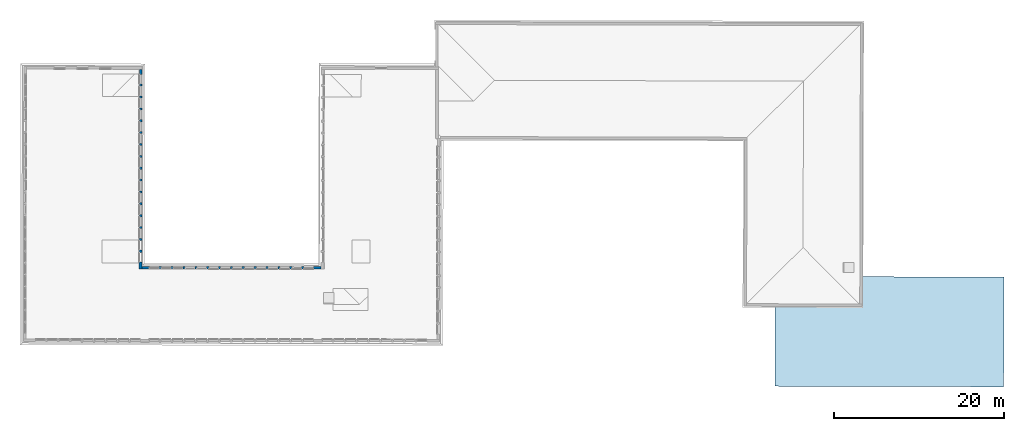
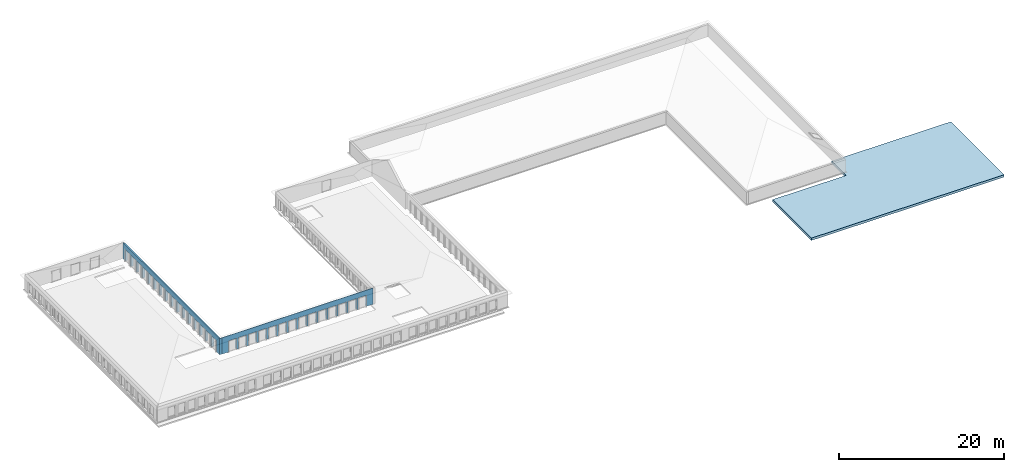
# One storey, part 22 of 26: 2 walls, 1 slab, 30 openings, 1 element without a shape of its own.
"""IFC2X3 building model written with IfcOpenShell, lengths in metres."""

from ifc_helpers import new_model, entity, si_unit, converted_unit, derived_unit, direction, frame, frame_2d, origin, origin_2d_with_axis, place, context, subcontext, project, spatial, polyline, rectangle, outline, extrude, clip, bounded_halfspace, material, layer, layer_set, layer_usage, type_object, element, aggregate, save


model = new_model("IFC2X3")

# Units and contexts
model_context = context("Model", 3, precision=1e-05, world=origin(), true_north=direction((6.123233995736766e-17, 1.0)))
body_context = subcontext(model_context, "Body", "Model", "MODEL_VIEW")
ifc_project = project(units=[si_unit("LENGTHUNIT", "METRE"), si_unit("AREAUNIT", "SQUARE_METRE"), converted_unit("PLANEANGLEUNIT", "DEGREE", entity("IfcPlaneAngleMeasure", 0.017453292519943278), si_unit("PLANEANGLEUNIT", "RADIAN"), dimensions=[0, 0, 0, 0, 0, 0, 0]), derived_unit("THERMALTRANSMITTANCEUNIT", [(si_unit("MASSUNIT", "GRAM", prefix="KILO"), 1), (si_unit("THERMODYNAMICTEMPERATUREUNIT", "KELVIN"), -1), (si_unit("TIMEUNIT", "SECOND"), -3)])], contexts=[model_context])

# Site, building, storey
site_placement = place(None, frame((1253.6752467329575, 2072.143113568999, 91.49999999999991), z_axis=(0.0, 0.0, 1.0), x_axis=(0.7237211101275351, 0.6900925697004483, 0.0)))
site = spatial("IfcSite", under=ifc_project, at=site_placement, Name="Surface", CompositionType="ELEMENT")
building_placement = place(site_placement, origin())
building = spatial("IfcBuilding", under=site, at=building_placement, CompositionType="ELEMENT")
storey_placement = place(building_placement, frame((0.0, 0.0, 7.0)))
storey = spatial("IfcBuildingStorey", under=building, at=storey_placement, Name="2-R+2", CompositionType="ELEMENT", Elevation=6.999999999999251)

# Roof, slab
ifc_material_1 = material(Name="OMD tranche")
ifc_layer_1 = layer(ifc_material_1, 0.35)
ifc_layer_set_1 = layer_set([ifc_layer_1], Name="Toit de base:toit terrasse 35")
roof_placement = place(storey_placement, frame((204.33338019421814, -79.37486805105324, 0.0)))
roof = element("IfcRoof", 1, at=roof_placement, inside=storey, material=ifc_layer_set_1, Name="Toit de base:toit terrasse 35", ObjectType="Toit de base:toit terrasse 35", ShapeType="NOTDEFINED")
type_product = type_object("IfcTypeProduct", Name="Toit de base:toit terrasse 35")
slab_placement = place(roof_placement, origin())
slab = element("IfcSlab", 2, at=slab_placement, type_object=type_product, material=ifc_layer_set_1, Name="Toit de base:toit terrasse 35", ObjectType="Toit de base:toit terrasse 35", PredefinedType="ROOF", context=body_context, shape_type="SweptSolid", body=[
    extrude(outline(polyline([(-14.219256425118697, 5.9308893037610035), (5.258175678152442, -12.738605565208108), (14.219256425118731, -3.3897269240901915), (2.1559543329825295, 8.173181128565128), (-0.2797988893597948, 5.632018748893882), (-7.693928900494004, 12.738605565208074), (-14.219256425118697, 5.9308893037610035)])), frame((14.219256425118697, 12.738605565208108, 0.0)), (0.0, 0.0, 1.0), 0.3499999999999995),
])
aggregate(roof, [slab])

# Wall, openings
ifc_material_2 = material(Name="OMD_Béton blanc")
ifc_layer_2 = layer(ifc_material_2, 0.29999999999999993)
ifc_layer_set_2 = layer_set([ifc_layer_2], Name="Mur de base:MUR 30")
ifc_layer_usage_1 = layer_usage(ifc_layer_set_2, "AXIS2", "NEGATIVE", 0.14999999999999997)
wall_type = type_object("IfcWallType", Name="Mur de base:MUR 30", PredefinedType="STANDARD", material=ifc_layer_set_2)
wall_1_placement = place(storey_placement, frame((175.99505469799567, 17.968774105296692, 0.9000000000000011), z_axis=(0.0, 0.0, 1.0), x_axis=(-0.6909838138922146, -0.7228702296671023, 0.0)))
wall_1 = element("IfcWallStandardCase", 3, at=wall_1_placement, inside=storey, type_object=wall_type, material=ifc_layer_usage_1, Name="Mur de base:MUR 30", ObjectType="Mur de base:MUR 30", context=body_context, shape_type="Clipping", body=[
    clip(clip(extrude(rectangle(XDim=23.54446506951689, YDim=0.29999999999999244, at=frame_2d((11.772232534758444, -2.6367796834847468e-15), x_axis=(-1.0, 0.0))), origin(), (0.0, 0.0, 1.0), 2.4065314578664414), bounded_halfspace(frame((0.0, 0.14999999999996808, 2.203153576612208), z_axis=(0.0, 0.5024164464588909, 0.8646257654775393), x_axis=(-1.0, 0.0, 0.0)), False, frame((0.0, 0.14999999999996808, 2.203153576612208)), polyline([(0.0, 0.0), (0.0, -0.29999999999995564), (23.494465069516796, -0.2999999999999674), (23.194465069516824, 0.0), (0.0, 0.0)]))), bounded_halfspace(frame((23.54446506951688, -0.15000000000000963, 2.406531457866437), z_axis=(-0.502416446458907, 0.0, 0.8646257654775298), x_axis=(0.0, -1.0, 0.0)), False, frame((23.54446506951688, -0.15000000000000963, 2.406531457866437)), polyline([(0.0, 0.0), (0.0, 0.29999999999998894), (-0.3000000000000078, 0.2999999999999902), (-0.35000000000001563, 0.2999999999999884), (-0.050000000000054, 0.0), (0.0, 0.0)]))),
])
opening_1_placement = place(wall_1_placement, frame((2.041628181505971, -0.013633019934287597, 0.0)))
element("IfcOpeningElement", 4, at=opening_1_placement, cuts=wall_1, Name="Mur de base:MUR 30", ObjectType="Opening", context=body_context, shape_type="SweptSolid", body=[
    extrude(rectangle(XDim=1.6499999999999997, YDim=1.1399999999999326, at=frame_2d((-1.5543122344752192e-15, 0.0), x_axis=(0.0, 1.0))), frame((-0.8720925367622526, -0.2887669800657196, 0.8249999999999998), z_axis=(0.0, 1.0, 0.0), x_axis=(-1.0, 0.0, 0.0)), (0.0, 0.0, 1.0), 0.6047999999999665),
])
opening_2_placement = place(wall_1_placement, frame((3.4416268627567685, -0.013633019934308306, 0.0)))
element("IfcOpeningElement", 5, at=opening_2_placement, cuts=wall_1, Name="Mur de base:MUR 30", ObjectType="Opening", context=body_context, shape_type="SweptSolid", body=[
    extrude(rectangle(XDim=1.6499999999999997, YDim=1.139999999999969, at=frame_2d((1.8207657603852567e-14, 0.0), x_axis=(0.0, 1.0))), frame((-0.872092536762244, -0.28876698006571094, 0.8249999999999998), z_axis=(0.0, 1.0, 0.0), x_axis=(-1.0, 0.0, 0.0)), (0.0, 0.0, 1.0), 0.6047999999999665),
])
opening_3_placement = place(wall_1_placement, frame((4.8416255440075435, -0.013633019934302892, 0.0)))
element("IfcOpeningElement", 6, at=opening_3_placement, cuts=wall_1, Name="Mur de base:MUR 30", ObjectType="Opening", context=body_context, shape_type="SweptSolid", body=[
    extrude(rectangle(XDim=1.6499999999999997, YDim=1.139999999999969, at=frame_2d((1.8207657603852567e-14, 0.0), x_axis=(0.0, 1.0))), frame((-0.872092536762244, -0.28876698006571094, 0.8249999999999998), z_axis=(0.0, 1.0, 0.0), x_axis=(-1.0, 0.0, 0.0)), (0.0, 0.0, 1.0), 0.6047999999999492),
])
opening_4_placement = place(wall_1_placement, frame((6.241624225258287, -0.01363301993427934, 0.0)))
element("IfcOpeningElement", 7, at=opening_4_placement, cuts=wall_1, Name="Mur de base:MUR 30", ObjectType="Opening", context=body_context, shape_type="SweptSolid", body=[
    extrude(rectangle(XDim=1.6499999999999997, YDim=1.139999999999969, at=frame_2d((-1.6653345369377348e-14, 0.0), x_axis=(0.0, 1.0))), frame((-0.8720925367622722, -0.28876698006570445, 0.8249999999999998), z_axis=(0.0, 1.0, 0.0), x_axis=(-1.0, 0.0, 0.0)), (0.0, 0.0, 1.0), 0.6048000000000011),
])
opening_5_placement = place(wall_1_placement, frame((7.641622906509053, -0.013633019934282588, 0.0)))
element("IfcOpeningElement", 8, at=opening_5_placement, cuts=wall_1, Name="Mur de base:MUR 30", ObjectType="Opening", context=body_context, shape_type="SweptSolid", body=[
    extrude(rectangle(XDim=1.6499999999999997, YDim=1.139999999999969, at=frame_2d((-1.9761969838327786e-14, 0.0), x_axis=(0.0, 1.0))), frame((-0.8720925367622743, -0.2887669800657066, 0.8249999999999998), z_axis=(0.0, 1.0, 0.0), x_axis=(-1.0, 0.0, 0.0)), (0.0, 0.0, 1.0), 0.6047999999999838),
])
opening_6_placement = place(wall_1_placement, frame((9.041621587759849, -0.013633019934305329, 0.0)))
element("IfcOpeningElement", 9, at=opening_6_placement, cuts=wall_1, Name="Mur de base:MUR 30", ObjectType="Opening", context=body_context, shape_type="SweptSolid", body=[
    extrude(rectangle(XDim=1.6499999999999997, YDim=1.1399999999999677, at=frame_2d((1.9040324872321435e-14, 0.0), x_axis=(0.0, 1.0))), frame((-0.872092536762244, -0.28876698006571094, 0.8249999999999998), z_axis=(0.0, 1.0, 0.0), x_axis=(-1.0, 0.0, 0.0)), (0.0, 0.0, 1.0), 0.6047999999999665),
])
opening_7_placement = place(wall_1_placement, frame((10.44162026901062, -0.013633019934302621, 0.0)))
element("IfcOpeningElement", 10, at=opening_7_placement, cuts=wall_1, Name="Mur de base:MUR 30", ObjectType="Opening", context=body_context, shape_type="SweptSolid", body=[
    extrude(rectangle(XDim=1.6499999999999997, YDim=1.139999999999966, at=frame_2d((1.8207657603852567e-14, 0.0), x_axis=(0.0, 1.0))), frame((-0.8720925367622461, -0.2887669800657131, 0.8249999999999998), z_axis=(0.0, 1.0, 0.0), x_axis=(-1.0, 0.0, 0.0)), (0.0, 0.0, 1.0), 0.6047999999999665),
])
opening_8_placement = place(wall_1_placement, frame((11.841618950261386, -0.013633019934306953, 0.0)))
element("IfcOpeningElement", 11, at=opening_8_placement, cuts=wall_1, Name="Mur de base:MUR 30", ObjectType="Opening", context=body_context, shape_type="SweptSolid", body=[
    extrude(rectangle(XDim=1.6499999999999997, YDim=1.139999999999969, at=frame_2d((1.8207657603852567e-14, 0.0), x_axis=(0.0, 1.0))), frame((-0.872092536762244, -0.28876698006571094, 0.8249999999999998), z_axis=(0.0, 1.0, 0.0), x_axis=(-1.0, 0.0, 0.0)), (0.0, 0.0, 1.0), 0.6047999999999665),
])
opening_9_placement = place(wall_1_placement, frame((13.241617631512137, -0.013633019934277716, 0.0)))
element("IfcOpeningElement", 12, at=opening_9_placement, cuts=wall_1, Name="Mur de base:MUR 30", ObjectType="Opening", context=body_context, shape_type="SweptSolid", body=[
    extrude(rectangle(XDim=1.6499999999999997, YDim=1.139999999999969, at=frame_2d((1.8207657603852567e-14, 0.0), x_axis=(0.0, 1.0))), frame((-0.8720925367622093, -0.28876698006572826, 0.8249999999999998), z_axis=(0.0, 1.0, 0.0), x_axis=(-1.0, 0.0, 0.0)), (0.0, 0.0, 1.0), 0.6047999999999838),
])
opening_10_placement = place(wall_1_placement, frame((14.641616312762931, -0.013633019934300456, 0.0)))
element("IfcOpeningElement", 13, at=opening_10_placement, cuts=wall_1, Name="Mur de base:MUR 30", ObjectType="Opening", context=body_context, shape_type="SweptSolid", body=[
    extrude(rectangle(XDim=1.6499999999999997, YDim=1.1399999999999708, at=frame_2d((1.7486012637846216e-14, 0.0), x_axis=(0.0, 1.0))), frame((-0.8720925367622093, -0.28876698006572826, 0.8249999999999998), z_axis=(0.0, 1.0, 0.0), x_axis=(-1.0, 0.0, 0.0)), (0.0, 0.0, 1.0), 0.6048000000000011),
])
opening_11_placement = place(wall_1_placement, frame((16.041614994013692, -0.013633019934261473, 0.0)))
element("IfcOpeningElement", 14, at=opening_11_placement, cuts=wall_1, Name="Mur de base:MUR 30", ObjectType="Opening", context=body_context, shape_type="SweptSolid", body=[
    extrude(rectangle(XDim=1.6499999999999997, YDim=1.139999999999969, at=frame_2d((1.8207657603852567e-14, 0.0), x_axis=(0.0, 1.0))), frame((-0.8720925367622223, -0.28876698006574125, 0.8249999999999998), z_axis=(0.0, 1.0, 0.0), x_axis=(-1.0, 0.0, 0.0)), (0.0, 0.0, 1.0), 0.6047999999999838),
])
opening_12_placement = place(wall_1_placement, frame((17.4441169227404, -0.01363301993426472, 0.0)))
element("IfcOpeningElement", 15, at=opening_12_placement, cuts=wall_1, Name="Mur de base:MUR 30", ObjectType="Opening", context=body_context, shape_type="SweptSolid", body=[
    extrude(rectangle(XDim=1.6499999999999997, YDim=1.1399999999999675, at=frame_2d((1.8207657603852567e-14, 0.0), x_axis=(0.0, 1.0))), frame((-0.8720925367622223, -0.28876698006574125, 0.8249999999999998), z_axis=(0.0, 1.0, 0.0), x_axis=(-1.0, 0.0, 0.0)), (0.0, 0.0, 1.0), 0.6047999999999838),
])
opening_13_placement = place(wall_1_placement, frame((18.844115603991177, -0.013633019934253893, 0.0)))
element("IfcOpeningElement", 16, at=opening_13_placement, cuts=wall_1, Name="Mur de base:MUR 30", ObjectType="Opening", context=body_context, shape_type="SweptSolid", body=[
    extrude(rectangle(XDim=1.6499999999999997, YDim=1.1399999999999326, at=frame_2d((0.0, 0.0), x_axis=(0.0, 1.0))), frame((-0.8720925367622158, -0.28876698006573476, 0.8249999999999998), z_axis=(0.0, 1.0, 0.0), x_axis=(-1.0, 0.0, 0.0)), (0.0, 0.0, 1.0), 0.6047999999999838),
])
opening_14_placement = place(wall_1_placement, frame((20.244114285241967, -0.013633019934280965, 0.0)))
element("IfcOpeningElement", 17, at=opening_14_placement, cuts=wall_1, Name="Mur de base:MUR 30", ObjectType="Opening", context=body_context, shape_type="SweptSolid", body=[
    extrude(rectangle(XDim=1.6499999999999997, YDim=1.1399999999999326, at=frame_2d((0.0, 0.0), x_axis=(0.0, 1.0))), frame((-0.8720925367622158, -0.28876698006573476, 0.8249999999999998), z_axis=(0.0, 1.0, 0.0), x_axis=(-1.0, 0.0, 0.0)), (0.0, 0.0, 1.0), 0.6047999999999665),
])
opening_15_placement = place(wall_1_placement, frame((21.644112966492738, -0.013633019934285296, 0.0)))
element("IfcOpeningElement", 18, at=opening_15_placement, cuts=wall_1, Name="Mur de base:MUR 30", ObjectType="Opening", context=body_context, shape_type="SweptSolid", body=[
    extrude(rectangle(XDim=1.6499999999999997, YDim=1.1399999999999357, at=frame_2d((0.0, 0.0), x_axis=(0.0, 1.0))), frame((-0.8720925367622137, -0.2887669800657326, 0.8249999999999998), z_axis=(0.0, 1.0, 0.0), x_axis=(-1.0, 0.0, 0.0)), (0.0, 0.0, 1.0), 0.6047999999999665),
])
opening_16_placement = place(wall_1_placement, frame((23.044111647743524, -0.013633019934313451, 0.0)))
element("IfcOpeningElement", 19, at=opening_16_placement, cuts=wall_1, Name="Mur de base:MUR 30", ObjectType="Opening", context=body_context, shape_type="SweptSolid", body=[
    extrude(rectangle(XDim=1.6499999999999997, YDim=1.1399999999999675, at=frame_2d((-1.8207657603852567e-14, 0.0), x_axis=(0.0, 1.0))), frame((-0.8720925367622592, -0.28876698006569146, 0.8249999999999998), z_axis=(0.0, 1.0, 0.0), x_axis=(-1.0, 0.0, 0.0)), (0.0, 0.0, 1.0), 0.6047999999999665),
])

ifc_layer_usage_2 = layer_usage(ifc_layer_set_2, "AXIS2", "NEGATIVE", 0.14999999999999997)
wall_2_placement = place(storey_placement, frame((159.93828853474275, 0.9539641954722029, 0.9000000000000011), z_axis=(0.0, 0.0, 1.0), x_axis=(0.7228702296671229, -0.6909838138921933, 0.0)))
wall_2 = element("IfcWallStandardCase", 20, at=wall_2_placement, inside=storey, type_object=wall_type, material=ifc_layer_usage_2, Name="Mur de base:MUR 30", ObjectType="Mur de base:MUR 30", context=body_context, shape_type="Clipping", body=[
    clip(extrude(rectangle(XDim=21.16640344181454, YDim=0.2999999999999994, at=frame_2d((10.583201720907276, -6.938893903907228e-15), x_axis=(1.0, 0.0))), origin(), (0.0, 0.0, 1.0), 2.406531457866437), bounded_halfspace(frame((0.0, -0.1499999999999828, 2.406531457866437), z_axis=(0.0, 0.5024164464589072, 0.8646257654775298), x_axis=(-1.0, 0.0, 0.0)), False, frame((0.0, -0.1499999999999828, 2.406531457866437)), polyline([(0.0, 0.0), (21.16640344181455, 0.0), (21.166403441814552, 0.29999999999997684), (0.0, 0.2999999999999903), (0.0, 0.0)]))),
])
opening_17_placement = place(wall_2_placement, frame((1.4558812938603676, -0.8718204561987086, 0.0)))
element("IfcOpeningElement", 21, at=opening_17_placement, cuts=wall_2, Name="Mur de base:MUR 30", ObjectType="Opening", context=body_context, shape_type="SweptSolid", body=[
    extrude(rectangle(XDim=1.6499999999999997, YDim=1.1400000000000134, at=frame_2d((0.0, 1.8485213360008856e-14), x_axis=(1.0, 0.0))), frame((0.025697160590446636, 0.5694204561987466, 0.8249999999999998), z_axis=(0.0, 1.0, 0.0), x_axis=(0.0, 0.0, 1.0)), (0.0, 0.0, 1.0), 0.6047999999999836),
])
opening_18_placement = place(wall_2_placement, frame((2.855879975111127, -0.8718204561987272, 0.0)))
element("IfcOpeningElement", 22, at=opening_18_placement, cuts=wall_2, Name="Mur de base:MUR 30", ObjectType="Opening", context=body_context, shape_type="SweptSolid", body=[
    extrude(rectangle(XDim=1.6499999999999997, YDim=1.140000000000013, at=frame_2d((0.0, 1.8540724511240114e-14), x_axis=(1.0, 0.0))), frame((0.025697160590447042, 0.5694204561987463, 0.8249999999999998), z_axis=(0.0, 1.0, 0.0), x_axis=(0.0, 0.0, 1.0)), (0.0, 0.0, 1.0), 0.6047999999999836),
])
opening_19_placement = place(wall_2_placement, frame((4.2558786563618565, -0.8718204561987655, 0.0)))
element("IfcOpeningElement", 23, at=opening_19_placement, cuts=wall_2, Name="Mur de base:MUR 30", ObjectType="Opening", context=body_context, shape_type="SweptSolid", body=[
    extrude(rectangle(XDim=1.6499999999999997, YDim=1.1400000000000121, at=frame_2d((0.0, 1.8540724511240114e-14), x_axis=(1.0, 0.0))), frame((0.025697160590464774, 0.5694204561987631, 0.8249999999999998), z_axis=(0.0, 1.0, 0.0), x_axis=(0.0, 0.0, 1.0)), (0.0, 0.0, 1.0), 0.6048000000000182),
])
opening_20_placement = place(wall_2_placement, frame((5.655877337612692, -0.8718204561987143, 0.0)))
element("IfcOpeningElement", 24, at=opening_20_placement, cuts=wall_2, Name="Mur de base:MUR 30", ObjectType="Opening", context=body_context, shape_type="SweptSolid", body=[
    extrude(rectangle(XDim=1.6499999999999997, YDim=1.140000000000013, at=frame_2d((0.0, 1.8540724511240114e-14), x_axis=(1.0, 0.0))), frame((0.025697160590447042, 0.5694204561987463, 0.8249999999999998), z_axis=(0.0, 1.0, 0.0), x_axis=(0.0, 0.0, 1.0)), (0.0, 0.0, 1.0), 0.6048000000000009),
])
opening_21_placement = place(wall_2_placement, frame((7.055876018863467, -0.8718204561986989, 0.0)))
element("IfcOpeningElement", 25, at=opening_21_placement, cuts=wall_2, Name="Mur de base:MUR 30", ObjectType="Opening", context=body_context, shape_type="SweptSolid", body=[
    extrude(rectangle(XDim=1.6499999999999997, YDim=1.1400000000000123, at=frame_2d((0.0, 1.865174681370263e-14), x_axis=(1.0, 0.0))), frame((0.025697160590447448, 0.5694204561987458, 0.8249999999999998), z_axis=(0.0, 1.0, 0.0), x_axis=(0.0, 0.0, 1.0)), (0.0, 0.0, 1.0), 0.6048000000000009),
])
opening_22_placement = place(wall_2_placement, frame((8.455874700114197, -0.8718204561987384, 0.0)))
element("IfcOpeningElement", 26, at=opening_22_placement, cuts=wall_2, Name="Mur de base:MUR 30", ObjectType="Opening", context=body_context, shape_type="SweptSolid", body=[
    extrude(rectangle(XDim=1.6499999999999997, YDim=1.140000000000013, at=frame_2d((0.0, -1.8540724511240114e-14), x_axis=(1.0, 0.0))), frame((0.025697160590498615, 0.5694204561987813, 0.8249999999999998), z_axis=(0.0, 1.0, 0.0), x_axis=(0.0, 0.0, 1.0)), (0.0, 0.0, 1.0), 0.6047999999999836),
])
opening_23_placement = place(wall_2_placement, frame((9.855873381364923, -0.8718204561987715, 0.0)))
element("IfcOpeningElement", 27, at=opening_23_placement, cuts=wall_2, Name="Mur de base:MUR 30", ObjectType="Opening", context=body_context, shape_type="SweptSolid", body=[
    extrude(rectangle(XDim=1.6499999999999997, YDim=1.1400000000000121, at=frame_2d((0.0, -1.8096635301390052e-14), x_axis=(1.0, 0.0))), frame((0.025697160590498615, 0.5694204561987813, 0.8249999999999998), z_axis=(0.0, 1.0, 0.0), x_axis=(0.0, 0.0, 1.0)), (0.0, 0.0, 1.0), 0.6048000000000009),
])
opening_24_placement = place(wall_2_placement, frame((11.25587206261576, -0.8718204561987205, 0.0)))
element("IfcOpeningElement", 28, at=opening_24_placement, cuts=wall_2, Name="Mur de base:MUR 30", ObjectType="Opening", context=body_context, shape_type="SweptSolid", body=[
    extrude(rectangle(XDim=1.6499999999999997, YDim=1.140000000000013, at=frame_2d((0.0, 1.8540724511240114e-14), x_axis=(1.0, 0.0))), frame((0.025697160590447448, 0.5694204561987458, 0.8249999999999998), z_axis=(0.0, 1.0, 0.0), x_axis=(0.0, 0.0, 1.0)), (0.0, 0.0, 1.0), 0.6048000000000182),
])
opening_25_placement = place(wall_2_placement, frame((12.655870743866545, -0.8718204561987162, 0.0)))
element("IfcOpeningElement", 29, at=opening_25_placement, cuts=wall_2, Name="Mur de base:MUR 30", ObjectType="Opening", context=body_context, shape_type="SweptSolid", body=[
    extrude(rectangle(XDim=1.6499999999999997, YDim=1.140000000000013, at=frame_2d((0.0, 1.8540724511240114e-14), x_axis=(1.0, 0.0))), frame((0.025697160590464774, 0.5694204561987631, 0.8249999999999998), z_axis=(0.0, 1.0, 0.0), x_axis=(0.0, 0.0, 1.0)), (0.0, 0.0, 1.0), 0.6047999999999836),
])
opening_26_placement = place(wall_2_placement, frame((14.055869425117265, -0.8718204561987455, 0.0)))
element("IfcOpeningElement", 30, at=opening_26_placement, cuts=wall_2, Name="Mur de base:MUR 30", ObjectType="Opening", context=body_context, shape_type="SweptSolid", body=[
    extrude(rectangle(XDim=1.6499999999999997, YDim=1.140000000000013, at=frame_2d((0.0, 1.8540724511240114e-14), x_axis=(1.0, 0.0))), frame((0.025697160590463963, 0.5694204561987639, 0.8249999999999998), z_axis=(0.0, 1.0, 0.0), x_axis=(0.0, 0.0, 1.0)), (0.0, 0.0, 1.0), 0.6047999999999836),
])
opening_27_placement = place(wall_2_placement, frame((15.455868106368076, -0.8718204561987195, 0.0)))
element("IfcOpeningElement", 31, at=opening_27_placement, cuts=wall_2, Name="Mur de base:MUR 30", ObjectType="Opening", context=body_context, shape_type="SweptSolid", body=[
    extrude(rectangle(XDim=1.6499999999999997, YDim=1.140000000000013, at=frame_2d((0.0, 1.8540724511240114e-14), x_axis=(1.0, 0.0))), frame((0.025697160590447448, 0.5694204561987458, 0.8249999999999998), z_axis=(0.0, 1.0, 0.0), x_axis=(0.0, 0.0, 1.0)), (0.0, 0.0, 1.0), 0.6048000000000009),
])
opening_28_placement = place(wall_2_placement, frame((16.855866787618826, -0.8718204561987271, 0.0)))
element("IfcOpeningElement", 32, at=opening_28_placement, cuts=wall_2, Name="Mur de base:MUR 30", ObjectType="Opening", context=body_context, shape_type="SweptSolid", body=[
    extrude(rectangle(XDim=1.6499999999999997, YDim=1.1399999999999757, at=origin_2d_with_axis()), frame((0.02569716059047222, 0.5694204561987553, 0.8249999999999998), z_axis=(0.0, 1.0, 0.0), x_axis=(0.0, 0.0, 1.0)), (0.0, 0.0, 1.0), 0.6047999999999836),
])
opening_29_placement = place(wall_2_placement, frame((18.25586546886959, -0.8718204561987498, 0.0)))
element("IfcOpeningElement", 33, at=opening_29_placement, cuts=wall_2, Name="Mur de base:MUR 30", ObjectType="Opening", context=body_context, shape_type="SweptSolid", body=[
    extrude(rectangle(XDim=1.6499999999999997, YDim=1.140000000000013, at=frame_2d((0.0, -1.8540724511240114e-14), x_axis=(1.0, 0.0))), frame((0.025697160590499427, 0.5694204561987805, 0.8249999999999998), z_axis=(0.0, 1.0, 0.0), x_axis=(0.0, 0.0, 1.0)), (0.0, 0.0, 1.0), 0.6048000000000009),
])
opening_30_placement = place(wall_2_placement, frame((19.655864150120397, -0.8718204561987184, 0.0)))
element("IfcOpeningElement", 34, at=opening_30_placement, cuts=wall_2, Name="Mur de base:MUR 30", ObjectType="Opening", context=body_context, shape_type="SweptSolid", body=[
    extrude(rectangle(XDim=1.6499999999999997, YDim=1.140000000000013, at=frame_2d((0.0, 1.8540724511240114e-14), x_axis=(1.0, 0.0))), frame((0.025697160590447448, 0.5694204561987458, 0.8249999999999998), z_axis=(0.0, 1.0, 0.0), x_axis=(0.0, 0.0, 1.0)), (0.0, 0.0, 1.0), 0.6047999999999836),
])

save(model, "model.ifc")
